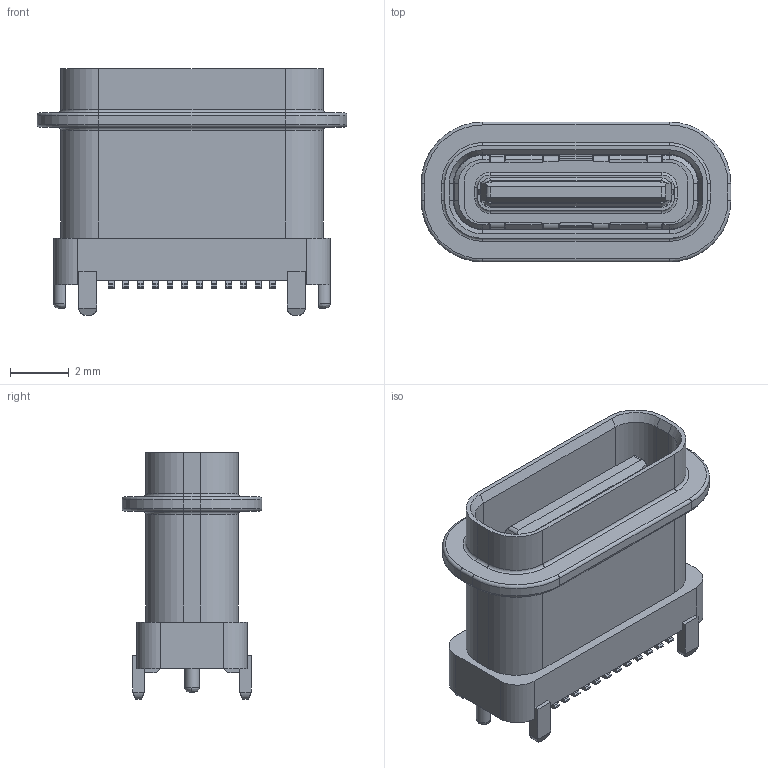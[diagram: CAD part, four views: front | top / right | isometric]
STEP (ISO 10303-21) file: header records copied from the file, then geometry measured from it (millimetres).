
FILE_DESCRIPTION((''),'2;1');
FILE_NAME('56','2023-06-30T17:17:11',('Administrator'),(''),'CREO PARAMETRIC BY PTC INC, 2019080','CREO PARAMETRIC BY PTC INC, 2019080','');
FILE_SCHEMA(('CONFIG_CONTROL_DESIGN'));
Length unit declared in the file: millimetre
Products named in the file (1): 56
Bounding box: 10.54 x 4.76 x 8.4 mm (x, y, z)
Volume: 129 mm3; surface area: 575.2 mm2
Topology: 1 solids, 8 shells, 1025 faces, 2824 edges, 1818 vertices
Faces by surface type: plane 721, cylinder 232, torus 32, cone 32, bspline 8
Entity records: 32724 total; most frequent: CARTESIAN_POINT 6353, ORIENTED_EDGE 5644, DIRECTION 5300, EDGE_CURVE 2822, VECTOR 2186, LINE 2186, VERTEX_POINT 1818, AXIS2_PLACEMENT_3D 1557
